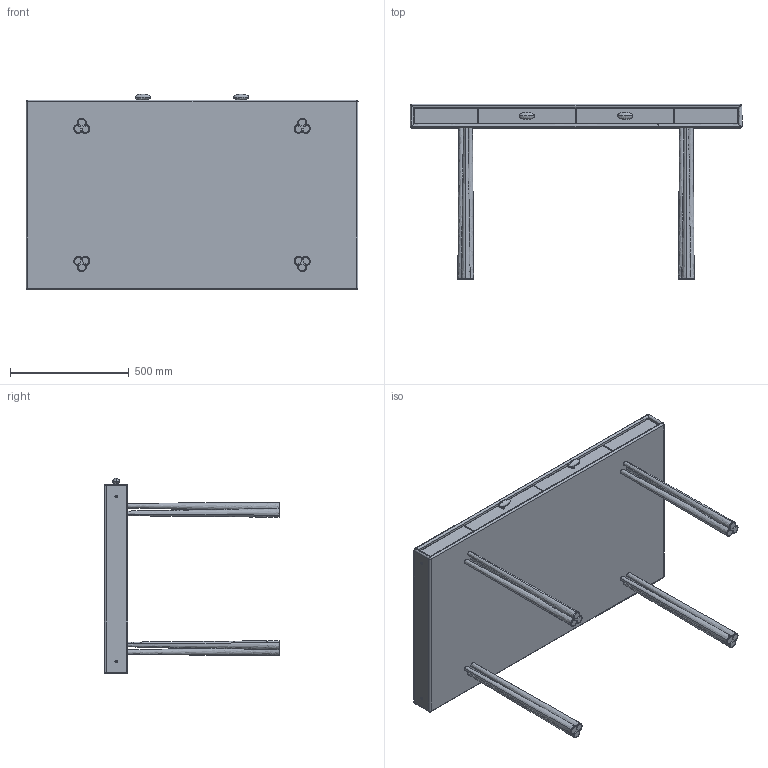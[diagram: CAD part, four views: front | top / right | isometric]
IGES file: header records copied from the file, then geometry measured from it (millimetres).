
Start section: SolidWorks IGES file using analytic representation for surfaces
Global section: file name: C:\Users\David.BDLE\Desktop\NOVOS 3D cad files\060 Desk_vc\060 Desk_vc_secretaria prmt.IGS; native system: SolidWorks 2016; preprocessor: SolidWorks 2016; author: David; date: 201210.090530; units: millimetre
Bounding box: 1400 x 740 x 825 mm (x, y, z)
Surface area: 3539560.3 mm2 (no closed solid volume)
Topology: 0 solids, 0 shells, 310 faces, 4062 edges, 4014 vertices
Faces by surface type: bspline 207, revolution 103
